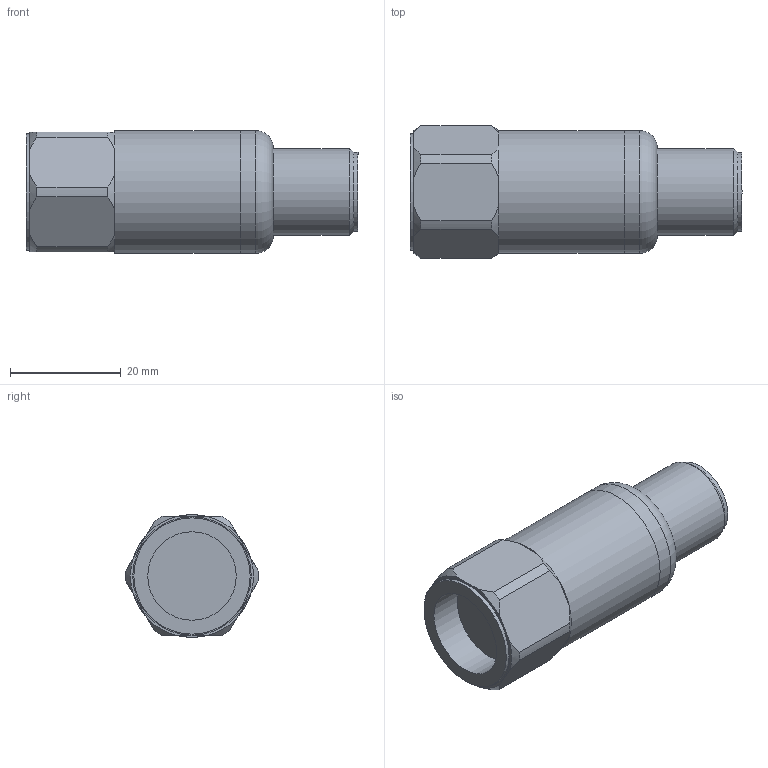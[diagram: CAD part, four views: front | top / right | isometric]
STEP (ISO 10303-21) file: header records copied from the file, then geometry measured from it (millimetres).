
FILE_DESCRIPTION(/* description */ (''),/* implementation_level */ '2;1');
FILE_NAME(/* name */ 'Z:\Engineering\Drawings\3D Library\Assemblies\Website\Premium Top\HS-150 Top 2 Pin MS\HS-150XXX5005.stp',/* time_stamp */ '2023-02-26T21:29:19+00:00',/* author */ ('Ricardo.Peneda'),/* organization */ (''),/* preprocessor_version */ 'ST-DEVELOPER v18.1',/* originating_system */ 'Autodesk Inventor 2021',/* authorisation */ '');
FILE_SCHEMA (('AUTOMOTIVE_DESIGN { 1 0 10303 214 3 1 1 }'));
Length unit declared in the file: inch
Products named in the file (1): HS-150XXX5005_Shrinkwrap_1
Bounding box: 59.97 x 23.99 x 22.2 mm (x, y, z)
Volume: 12995.1 mm3; surface area: 7460.5 mm2
Topology: 2 solids, 2 shells, 49 faces, 130 edges, 92 vertices
Faces by surface type: plane 23, cylinder 16, cone 9, torus 1
Full cylindrical faces by diameter (mm): 11.37 x1, 14.28 x1, 15.055 x1, 15.7 x1, 16 x1, 19 x1, 20 x1, 21 x1, 22.2 x2
Entity records: 1648 total; most frequent: CARTESIAN_POINT 320, DIRECTION 275, ORIENTED_EDGE 260, EDGE_CURVE 130, AXIS2_PLACEMENT_3D 119, VERTEX_POINT 92, CIRCLE 69, EDGE_LOOP 56
